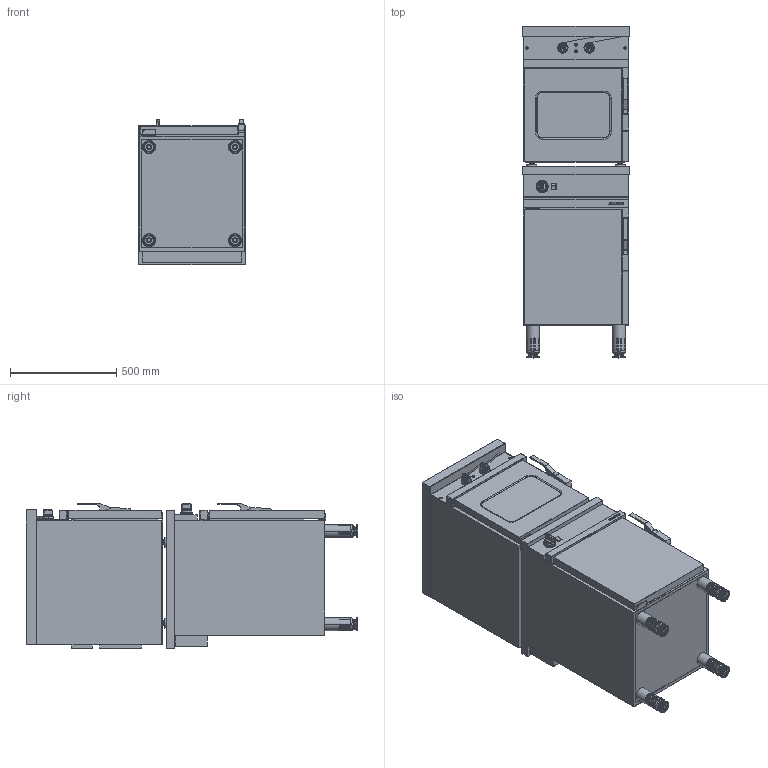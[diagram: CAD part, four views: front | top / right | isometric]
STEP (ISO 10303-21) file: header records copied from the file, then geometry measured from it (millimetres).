
FILE_DESCRIPTION((''),'2;1');
FILE_NAME('CFE505CT_INV_CES505_EXPORT_STEP_ASM','2018-01-22T13:41:19',('m.grapin'),(''),'CREO PARAMETRIC BY PTC INC, 2017260','CREO PARAMETRIC BY PTC INC, 2017260','');
FILE_SCHEMA(('AP203_CONFIGURATION_CONTROLLED_3D_DESIGN_OF_MECHANICAL_PARTS_AND_ASSEMBLIES_MIM_LF { 1 0 10303 403 2 1 2 }'));
Length unit declared in the file: millimetre
Products named in the file (20): CFE505CT_INV_EXPORT_STEP; 6532023POIGNEE; 6531018; 50857500; 65044000; 65129051; 65231017; 65490006; 65244010; 65290011; 90001627_ASM; 65231007; 90000125_ASM; 6530771; CES505_INV_SUPPORT_EXPORT_STEP; MANETTE_AMB_EXPORT_STEP; BASCULEUR_AMB_EXPORT_DXF; 65141002; CES505_INV_SUPPORT_EXPORT_STEP_ASM; CFE505CT_INV_CES505_EXPORT_STEP_ASM
Assembly tree (34 placements, depth 3):
  CFE505CT_INV_CES505_EXPORT_STEP_ASM
    CFE505CT_INV_EXPORT_STEP
    6532023POIGNEE
    6531018  x4
    50857500
    65044000  x2
    90001627_ASM
      65129051
      65231017
      65490006
      65244010  x2
      65290011
    90000125_ASM
      65129051
      65231007
      65490006
      65244010  x2
      65290011
    6530771  x2
    CES505_INV_SUPPORT_EXPORT_STEP_ASM
      CES505_INV_SUPPORT_EXPORT_STEP
      MANETTE_AMB_EXPORT_STEP
      BASCULEUR_AMB_EXPORT_DXF
      6532023POIGNEE
      65141002  x4
Bounding box: 500 x 1558.8 x 685.53 mm (x, y, z)
Volume: 419535093.4 mm3; surface area: 5301400 mm2
Topology: 36 solids, 72 shells, 2074 faces, 5197 edges, 3457 vertices
Faces by surface type: cylinder 817, plane 817, cone 190, bspline 112, torus 74, sphere 64
Entity records: 51376 total; most frequent: CARTESIAN_POINT 12016, DIRECTION 5991, ORIENTED_EDGE 5474, EDGE_CURVE 2981, AXIS2_PLACEMENT_3D 2223, VERTEX_POINT 2035, VECTOR 1488, LINE 1488
